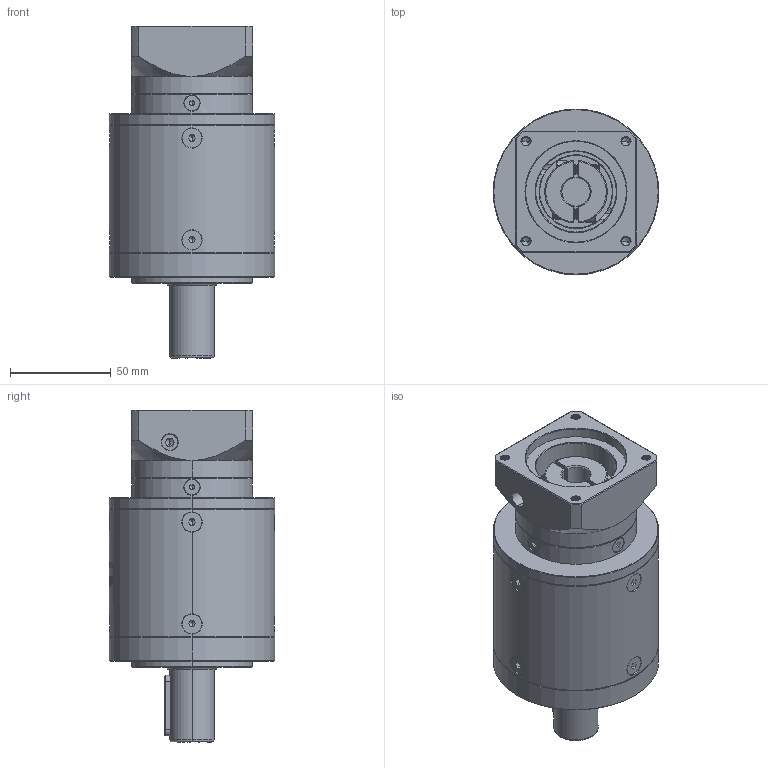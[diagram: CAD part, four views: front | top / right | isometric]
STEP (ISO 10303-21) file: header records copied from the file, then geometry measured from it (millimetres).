
FILE_DESCRIPTION (( 'STEP AP214' ), '1' );
FILE_NAME ('ZE80-D22-L3-14-50-70-M5.step', '2022-05-08T06:04:59', ( '' ), ( 'Microsoft' ), 'SwSTEP 2.0', 'SolidWorks 2016', '' );
FILE_SCHEMA (( 'AUTOMOTIVE_DESIGN' ));
Length unit declared in the file: millimetre
Products named in the file (1): ZE80-D22-L3-14-50-70-M5
Bounding box: 82 x 82 x 164.5 mm (x, y, z)
Volume: 548280.3 mm3; surface area: 69672.8 mm2
Topology: 18 solids, 18 shells, 2126 faces, 5597 edges, 3562 vertices
Faces by surface type: plane 943, cylinder 517, bspline 340, cone 312, torus 14
Entity records: 121665 total; most frequent: CARTESIAN_POINT 50005, ORIENTED_EDGE 11102, DIRECTION 8630, EDGE_CURVE 5551, VERTEX_POINT 3562, VECTOR 2960, LINE 2960, AXIS2_PLACEMENT_3D 2835
